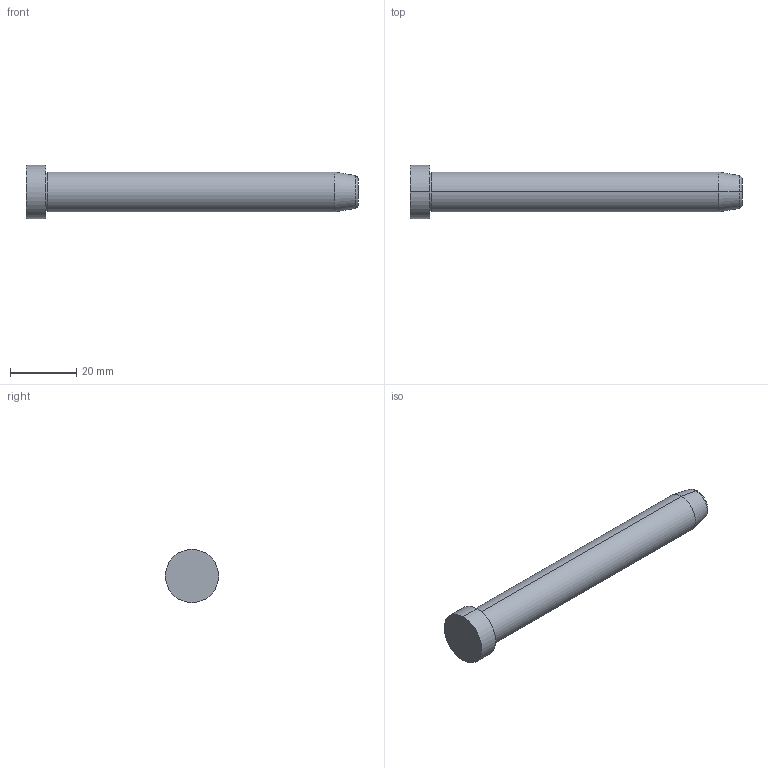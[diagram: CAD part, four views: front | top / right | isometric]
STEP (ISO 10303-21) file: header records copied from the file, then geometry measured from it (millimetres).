
FILE_DESCRIPTION( ( 'STEP AP203' ), '1' );
FILE_NAME( 'D:/Delta 3 D/D01D/12/D01D - 12x100.step', '2003-01-02T23:13:30', ( ' ' ), ( ' ' ), 'XStep 1.0', ' ', ' ' );
FILE_SCHEMA( ( 'CONFIG_CONTROL_DESIGN' ) );
Length unit declared in the file: metre
Products named in the file (1): 1
Bounding box: 100 x 16 x 16 mm (x, y, z)
Volume: 11677.1 mm3; surface area: 4191.1 mm2
Topology: 1 solids, 1 shells, 14 faces, 26 edges, 16 vertices
Faces by surface type: revolution 8, bspline 6
Entity records: 437 total; most frequent: CARTESIAN_POINT 121, ORIENTED_EDGE 52, DIRECTION 50, EDGE_CURVE 26, AXIS2_PLACEMENT_3D 17, EDGE_LOOP 16, VERTEX_POINT 16, CIRCLE 16
